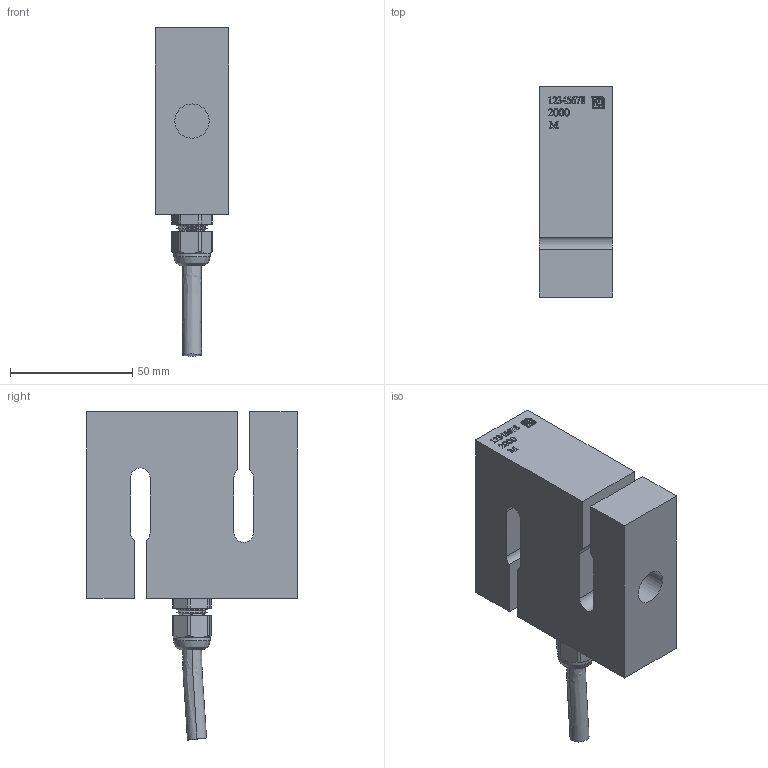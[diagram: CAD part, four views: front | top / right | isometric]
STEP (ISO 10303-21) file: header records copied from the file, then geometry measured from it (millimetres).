
FILE_DESCRIPTION(/* description */ (''),/* implementation_level */ '2;1');
FILE_NAME(/* name */ '//pdmuksvr/e/Marketing 2.0/1. Assets/10. CAD/Dumb CAD/ULB/ulb-2000kg-outline.step',/* time_stamp */ '2021-11-09T08:30:33+00:00',/* author */ (''),/* organization */ (''),/* preprocessor_version */ 'ST-DEVELOPER v18.1',/* originating_system */ 'Autodesk Translation Framework v10.10.0.1391',/* authorisation */ '');
FILE_SCHEMA (('AUTOMOTIVE_DESIGN { 1 0 10303 214 3 1 1 }'));
Length unit declared in the file: millimetre
Products named in the file (4): ulb-2000kg-outline; cableGland; cable; mainBody
Assembly tree (3 placements, depth 2):
  ulb-2000kg-outline
    cableGland
    cable
    mainBody
Bounding box: 30 x 86 x 134.1 mm (x, y, z)
Volume: 176516.3 mm3; surface area: 33950 mm2
Topology: 4 solids, 4 shells, 485 faces, 1200 edges, 793 vertices
Faces by surface type: plane 186, bspline 176, cylinder 72, cone 49, torus 2
Full cylindrical faces by diameter (mm): 0.5 x47, 7.62 x2, 9.335 x2, 14 x2, 14.986 x1
Entity records: 20136 total; most frequent: CARTESIAN_POINT 9478, ORIENTED_EDGE 2400, DIRECTION 1706, EDGE_CURVE 1200, VERTEX_POINT 793, LINE 606, VECTOR 606, EDGE_LOOP 563
